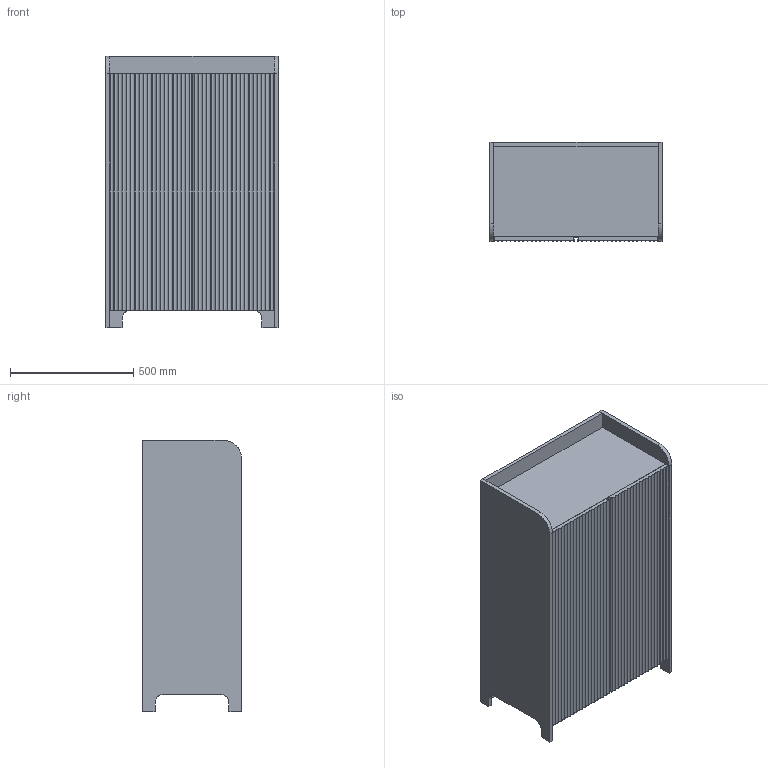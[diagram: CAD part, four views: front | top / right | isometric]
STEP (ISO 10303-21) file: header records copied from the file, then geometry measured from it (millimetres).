
FILE_DESCRIPTION(/* description */ (''),/* implementation_level */ '2;1');
FILE_NAME(/* name */ 'Sill Cupboards_Low_3D',/* time_stamp */ '2021-05-03T14:57:46+02:00',/* author */ (''),/* organization */ (''),/* preprocessor_version */ 'ST-DEVELOPER v16.5',/* originating_system */ '',/* authorisation */ '');
FILE_SCHEMA (('CONFIG_CONTROL_DESIGN'));
Length unit declared in the file: millimetre
Products named in the file (1): Document
Bounding box: 700 x 400 x 1100 mm (x, y, z)
Volume: 57428532.5 mm3; surface area: 7746164.5 mm2
Topology: 13 solids, 13 shells, 178 faces, 456 edges, 304 vertices
Faces by surface type: plane 128, bspline 42, cylinder 8
Entity records: 5028 total; most frequent: CARTESIAN_POINT 2141, ORIENTED_EDGE 912, EDGE_CURVE 456, VERTEX_POINT 304, ADVANCED_FACE 178, FACE_OUTER_BOUND 178, EDGE_LOOP 178, B_SPLINE_CURVE_WITH_KNOTS 157
